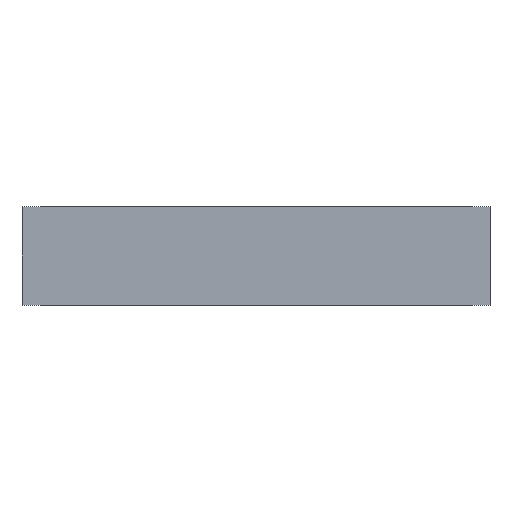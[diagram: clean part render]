
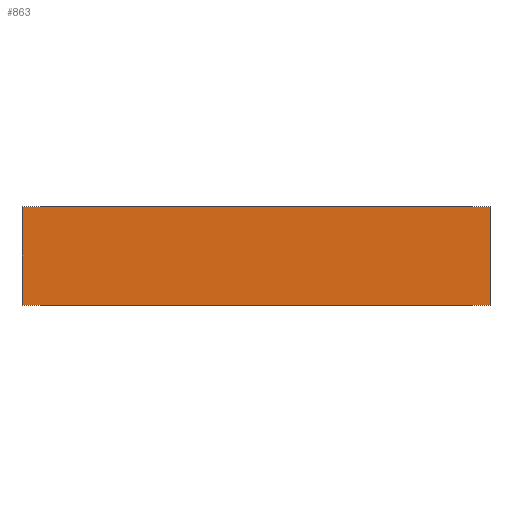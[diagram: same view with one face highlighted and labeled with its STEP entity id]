
A CAD part, front view. The second image highlights one B-rep face of the part: STEP entity #863.
In plain terms, the highlighted planar face has unit normal (0, -1, 0).
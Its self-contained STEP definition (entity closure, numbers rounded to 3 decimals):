
#87 = EDGE_LOOP ( 'NONE', ( #106, #105, #104, #103 ) ) ;
#103 = ORIENTED_EDGE ( 'NONE', *, *, #588, .T. ) ;
#104 = ORIENTED_EDGE ( 'NONE', *, *, #570, .F. ) ;
#105 = ORIENTED_EDGE ( 'NONE', *, *, #579, .F. ) ;
#106 = ORIENTED_EDGE ( 'NONE', *, *, #573, .T. ) ;
#215 = DIRECTION ( 'NONE',  ( -1., 0., 0. ) ) ;
#217 = DIRECTION ( 'NONE',  ( 0., 1., 0. ) ) ;
#225 = CARTESIAN_POINT ( 'NONE',  ( -154., 0., 65. ) ) ;
#230 = PLANE ( 'NONE',  #1007 ) ;
#243 = CARTESIAN_POINT ( 'NONE',  ( -154., 0., 0. ) ) ;
#300 = CARTESIAN_POINT ( 'NONE',  ( 154., 0., 65. ) ) ;
#323 = CARTESIAN_POINT ( 'NONE',  ( 154., 0., 0. ) ) ;
#336 = CARTESIAN_POINT ( 'NONE',  ( -154., 0., 65. ) ) ;
#373 = DIRECTION ( 'NONE',  ( 0., 0., -1. ) ) ;
#374 = CARTESIAN_POINT ( 'NONE',  ( -154., 0., 65. ) ) ;
#393 = DIRECTION ( 'NONE',  ( 0., 0., -1. ) ) ;
#394 = CARTESIAN_POINT ( 'NONE',  ( 154., 0., 65. ) ) ;
#407 = DIRECTION ( 'NONE',  ( 1., 0., 0. ) ) ;
#408 = CARTESIAN_POINT ( 'NONE',  ( -154., 0., 0. ) ) ;
#415 = DIRECTION ( 'NONE',  ( 1., 0., 0. ) ) ;
#419 = VERTEX_POINT ( 'NONE', #336 ) ;
#421 = CARTESIAN_POINT ( 'NONE',  ( -154., 0., 65. ) ) ;
#447 = VERTEX_POINT ( 'NONE', #323 ) ;
#473 = VERTEX_POINT ( 'NONE', #300 ) ;
#502 = VERTEX_POINT ( 'NONE', #243 ) ;
#570 = EDGE_CURVE ( 'NONE', #419, #473, #759, .T. ) ;
#573 = EDGE_CURVE ( 'NONE', #502, #447, #744, .T. ) ;
#579 = EDGE_CURVE ( 'NONE', #473, #447, #732, .T. ) ;
#588 = EDGE_CURVE ( 'NONE', #419, #502, #713, .T. ) ;
#712 = VECTOR ( 'NONE', #373, 1000. ) ;
#713 = LINE ( 'NONE', #374, #712 ) ;
#730 = VECTOR ( 'NONE', #393, 1000. ) ;
#732 = LINE ( 'NONE', #394, #730 ) ;
#743 = VECTOR ( 'NONE', #407, 1000. ) ;
#744 = LINE ( 'NONE', #408, #743 ) ;
#750 = VECTOR ( 'NONE', #415, 1000. ) ;
#759 = LINE ( 'NONE', #421, #750 ) ;
#863 = ADVANCED_FACE ( 'NONE', ( #946 ), #230, .F. ) ;
#946 = FACE_OUTER_BOUND ( 'NONE', #87, .T. ) ;
#1007 = AXIS2_PLACEMENT_3D ( 'NONE', #225, #217, #215 ) ;
